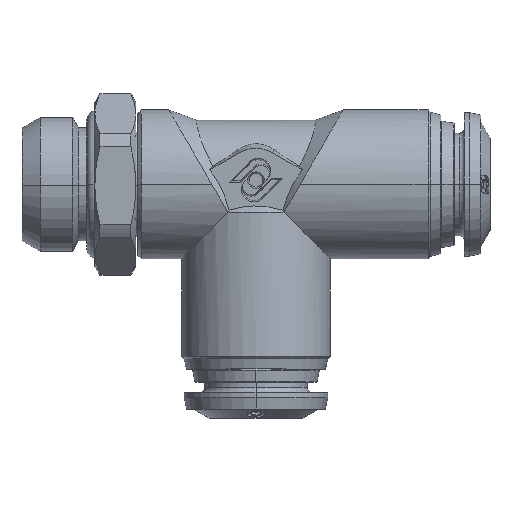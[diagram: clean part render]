
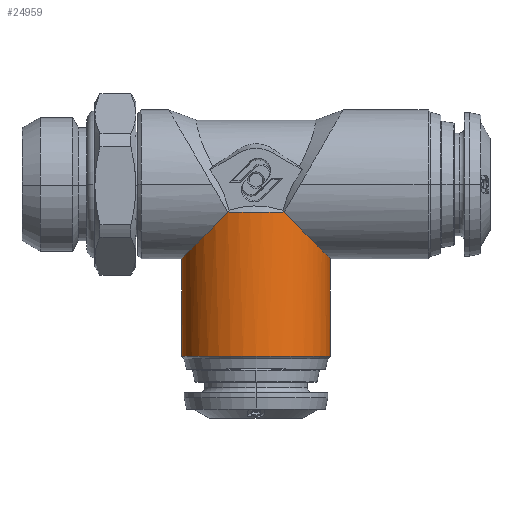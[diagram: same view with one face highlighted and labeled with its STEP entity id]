
A CAD part, top view. The second image highlights one B-rep face of the part: STEP entity #24959.
In plain terms, the highlighted cylindrical face has radius 7.25 mm (diameter 14.5 mm), a partial arc.
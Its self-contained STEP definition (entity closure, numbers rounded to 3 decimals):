
#658 = CIRCLE ( 'NONE', #1548, 7.25 ) ;
#689 = LINE ( 'NONE', #6103, #691 ) ;
#691 = VECTOR ( 'NONE', #6104, 1000. ) ;
#692 = CIRCLE ( 'NONE', #1557, 7.25 ) ;
#693 = LINE ( 'NONE', #6116, #695 ) ;
#695 = VECTOR ( 'NONE', #6117, 1000. ) ;
#1548 = AXIS2_PLACEMENT_3D ( 'NONE', #6055, #6056, #6057 ) ;
#1557 = AXIS2_PLACEMENT_3D ( 'NONE', #6110, #6111, #6112 ) ;
#2166 = VERTEX_POINT ( 'NONE', #13674 ) ;
#2960 = DIRECTION ( 'NONE',  ( -1., 0., 0. ) ) ;
#2999 = CARTESIAN_POINT ( 'NONE',  ( -3.041, 4.166, 0. ) ) ;
#3000 = DIRECTION ( 'NONE',  ( 0., 1., 0. ) ) ;
#4761 = EDGE_LOOP ( 'NONE', ( #6994, #6995, #6996, #6997, #6998, #6999 ) ) ;
#6055 = CARTESIAN_POINT ( 'NONE',  ( -3.041, -12.602, 0. ) ) ;
#6056 = DIRECTION ( 'NONE',  ( 0., 1., 0. ) ) ;
#6057 = DIRECTION ( 'NONE',  ( -1., 0., 0. ) ) ;
#6098 = CARTESIAN_POINT ( 'NONE',  ( 4.209, -3.084, 0. ) ) ;
#6099 = CARTESIAN_POINT ( 'NONE',  ( 4.209, -3.084, 3.042 ) ) ;
#6103 = CARTESIAN_POINT ( 'NONE',  ( 4.209, 4.166, 0. ) ) ;
#6104 = DIRECTION ( 'NONE',  ( 0., 1., 0. ) ) ;
#6106 = CARTESIAN_POINT ( 'NONE',  ( 2.511, -1.386, 5.567 ) ) ;
#6107 = CARTESIAN_POINT ( 'NONE',  ( -0.306, 1.431, 6.714 ) ) ;
#6108 = CARTESIAN_POINT ( 'NONE',  ( -5.776, 1.431, 6.714 ) ) ;
#6109 = CARTESIAN_POINT ( 'NONE',  ( -8.594, -1.386, 5.567 ) ) ;
#6110 = CARTESIAN_POINT ( 'NONE',  ( -3.041, 1.431, 0. ) ) ;
#6111 = DIRECTION ( 'NONE',  ( 0., -1., 0. ) ) ;
#6112 = DIRECTION ( 'NONE',  ( 1., 0., 0. ) ) ;
#6114 = CARTESIAN_POINT ( 'NONE',  ( -10.291, -3.084, 3.042 ) ) ;
#6115 = CARTESIAN_POINT ( 'NONE',  ( -10.291, -3.084, 0. ) ) ;
#6116 = CARTESIAN_POINT ( 'NONE',  ( -10.291, 4.166, 0. ) ) ;
#6117 = DIRECTION ( 'NONE',  ( 0., 1., 0. ) ) ;
#6994 = ORIENTED_EDGE ( 'NONE', *, *, #14013, .T. ) ;
#6995 = ORIENTED_EDGE ( 'NONE', *, *, #14033, .T. ) ;
#6996 = ORIENTED_EDGE ( 'NONE', *, *, #14034, .T. ) ;
#6997 = ORIENTED_EDGE ( 'NONE', *, *, #14035, .T. ) ;
#6998 = ORIENTED_EDGE ( 'NONE', *, *, #14036, .T. ) ;
#6999 = ORIENTED_EDGE ( 'NONE', *, *, #14037, .F. ) ;
#9021 = FACE_OUTER_BOUND ( 'NONE', #4761, .T. ) ;
#9025 = CYLINDRICAL_SURFACE ( 'NONE', #19277, 7.25 ) ;
#13674 = CARTESIAN_POINT ( 'NONE',  ( -0.306, 1.431, 6.714 ) ) ;
#14013 = EDGE_CURVE ( 'NONE', #14291, #14292, #658, .T. ) ;
#14033 = EDGE_CURVE ( 'NONE', #14292, #14200, #689, .T. ) ;
#14034 = EDGE_CURVE ( 'NONE', #14200, #2166, #23211, .T. ) ;
#14035 = EDGE_CURVE ( 'NONE', #2166, #14332, #692, .T. ) ;
#14036 = EDGE_CURVE ( 'NONE', #14332, #14327, #23214, .T. ) ;
#14037 = EDGE_CURVE ( 'NONE', #14291, #14327, #693, .T. ) ;
#14200 = VERTEX_POINT ( 'NONE', #21966 ) ;
#14291 = VERTEX_POINT ( 'NONE', #22062 ) ;
#14292 = VERTEX_POINT ( 'NONE', #22063 ) ;
#14327 = VERTEX_POINT ( 'NONE', #22098 ) ;
#14332 = VERTEX_POINT ( 'NONE', #22103 ) ;
#19277 = AXIS2_PLACEMENT_3D ( 'NONE', #2999, #3000, #2960 ) ;
#21966 = CARTESIAN_POINT ( 'NONE',  ( 4.209, -3.084, 0. ) ) ;
#22062 = CARTESIAN_POINT ( 'NONE',  ( -10.291, -12.602, 0. ) ) ;
#22063 = CARTESIAN_POINT ( 'NONE',  ( 4.209, -12.602, 0. ) ) ;
#22098 = CARTESIAN_POINT ( 'NONE',  ( -10.291, -3.084, 0. ) ) ;
#22103 = CARTESIAN_POINT ( 'NONE',  ( -5.776, 1.431, 6.714 ) ) ;
#23211 =( BOUNDED_CURVE ( )  B_SPLINE_CURVE ( 3, ( #6098, #6099, #6106, #6107 ),
 .UNSPECIFIED., .F., .F. ) 
 B_SPLINE_CURVE_WITH_KNOTS ( ( 4, 4 ),
 ( 3.142, 4.326 ),
 .UNSPECIFIED. ) 
 CURVE ( )  GEOMETRIC_REPRESENTATION_ITEM ( )  RATIONAL_B_SPLINE_CURVE ( ( 1., 0.887, 0.887, 1. ) ) 
 REPRESENTATION_ITEM ( '' )  );
#23214 =( BOUNDED_CURVE ( )  B_SPLINE_CURVE ( 3, ( #6108, #6109, #6114, #6115 ),
 .UNSPECIFIED., .F., .F. ) 
 B_SPLINE_CURVE_WITH_KNOTS ( ( 4, 4 ),
 ( 5.099, 6.283 ),
 .UNSPECIFIED. ) 
 CURVE ( )  GEOMETRIC_REPRESENTATION_ITEM ( )  RATIONAL_B_SPLINE_CURVE ( ( 1., 0.887, 0.887, 1. ) ) 
 REPRESENTATION_ITEM ( '' )  );
#24959 = ADVANCED_FACE ( 'NONE', ( #9021 ), #9025, .T. ) ;
